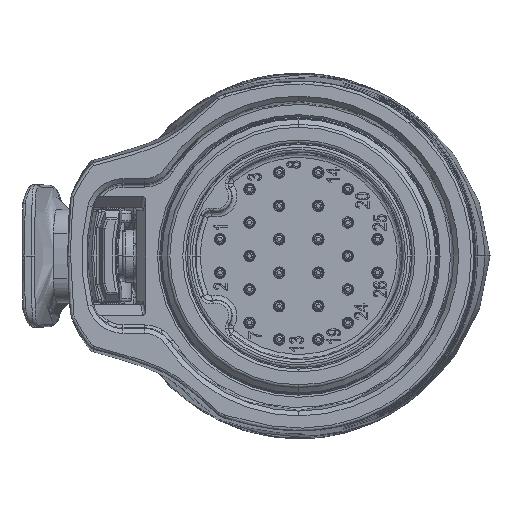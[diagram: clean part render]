
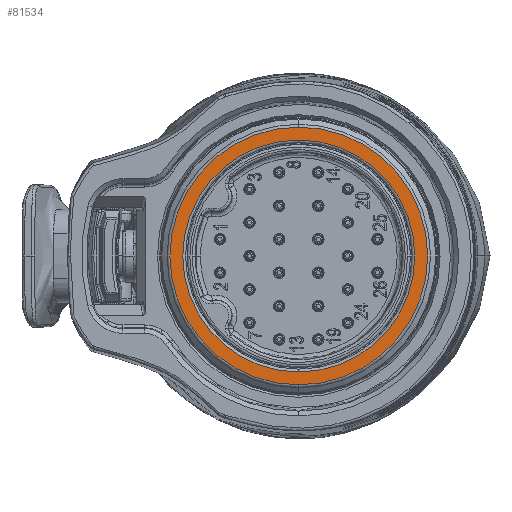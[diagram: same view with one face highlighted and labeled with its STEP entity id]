
A CAD part, left-side view. The second image highlights one B-rep face of the part: STEP entity #81534.
In plain terms, the highlighted planar face has unit normal (-1, 0, 0).
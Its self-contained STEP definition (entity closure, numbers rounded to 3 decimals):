
#685 = ORIENTED_EDGE ( 'NONE', *, *, #139888, .T. ) ;
#1490 = CARTESIAN_POINT ( 'NONE',  ( 0., 0., 0. ) ) ;
#8391 = CARTESIAN_POINT ( 'NONE',  ( 0., 0., 0. ) ) ;
#9759 = CIRCLE ( 'NONE', #149903, 12.15 ) ;
#10888 = FACE_OUTER_BOUND ( 'NONE', #57680, .T. ) ;
#16335 = DIRECTION ( 'NONE',  ( 0., 0., -1. ) ) ;
#18319 = AXIS2_PLACEMENT_3D ( 'NONE', #24965, #48493, #51376 ) ;
#19373 = DIRECTION ( 'NONE',  ( 1., 0., 0. ) ) ;
#24965 = CARTESIAN_POINT ( 'NONE',  ( 0., 11.85, 0. ) ) ;
#28378 = CARTESIAN_POINT ( 'NONE',  ( 0., 0., 13.5 ) ) ;
#28706 = CIRCLE ( 'NONE', #103799, 12.15 ) ;
#36304 = ORIENTED_EDGE ( 'NONE', *, *, #69523, .T. ) ;
#36730 = FACE_BOUND ( 'NONE', #123845, .T. ) ;
#37533 = DIRECTION ( 'NONE',  ( -1., 0., 0. ) ) ;
#38131 = EDGE_CURVE ( 'NONE', #127449, #76456, #74330, .T. ) ;
#47138 = ORIENTED_EDGE ( 'NONE', *, *, #61262, .T. ) ;
#48493 = DIRECTION ( 'NONE',  ( 1., 0., 0. ) ) ;
#49112 = VERTEX_POINT ( 'NONE', #130038 ) ;
#51376 = DIRECTION ( 'NONE',  ( 0., 0., -1. ) ) ;
#55859 = CARTESIAN_POINT ( 'NONE',  ( 0., 0., 0. ) ) ;
#57680 = EDGE_LOOP ( 'NONE', ( #47138, #145734 ) ) ;
#61262 = EDGE_CURVE ( 'NONE', #76456, #127449, #71715, .T. ) ;
#66080 = DIRECTION ( 'NONE',  ( 0., 0., -1. ) ) ;
#69523 = EDGE_CURVE ( 'NONE', #49112, #81272, #9759, .T. ) ;
#71715 = CIRCLE ( 'NONE', #116668, 13.5 ) ;
#74330 = CIRCLE ( 'NONE', #126894, 13.5 ) ;
#75099 = DIRECTION ( 'NONE',  ( 0., 0., -1. ) ) ;
#75894 = CARTESIAN_POINT ( 'NONE',  ( 0., 0., 0. ) ) ;
#76456 = VERTEX_POINT ( 'NONE', #91512 ) ;
#81272 = VERTEX_POINT ( 'NONE', #126925 ) ;
#81534 = ADVANCED_FACE ( 'NONE', ( #36730, #10888 ), #108054, .F. ) ;
#91512 = CARTESIAN_POINT ( 'NONE',  ( 0., 0., -13.5 ) ) ;
#103799 = AXIS2_PLACEMENT_3D ( 'NONE', #8391, #19373, #149453 ) ;
#108054 = PLANE ( 'NONE',  #18319 ) ;
#108056 = DIRECTION ( 'NONE',  ( -1., 0., 0. ) ) ;
#116668 = AXIS2_PLACEMENT_3D ( 'NONE', #75894, #37533, #16335 ) ;
#123845 = EDGE_LOOP ( 'NONE', ( #685, #36304 ) ) ;
#126894 = AXIS2_PLACEMENT_3D ( 'NONE', #1490, #108056, #75099 ) ;
#126925 = CARTESIAN_POINT ( 'NONE',  ( 0., 0., -12.15 ) ) ;
#127449 = VERTEX_POINT ( 'NONE', #28378 ) ;
#130038 = CARTESIAN_POINT ( 'NONE',  ( 0., 0., 12.15 ) ) ;
#139692 = DIRECTION ( 'NONE',  ( 1., 0., 0. ) ) ;
#139888 = EDGE_CURVE ( 'NONE', #81272, #49112, #28706, .T. ) ;
#145734 = ORIENTED_EDGE ( 'NONE', *, *, #38131, .T. ) ;
#149453 = DIRECTION ( 'NONE',  ( 0., 0., -1. ) ) ;
#149903 = AXIS2_PLACEMENT_3D ( 'NONE', #55859, #139692, #66080 ) ;
